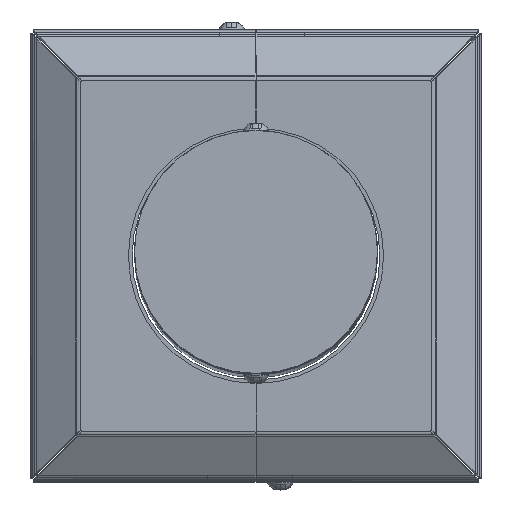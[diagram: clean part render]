
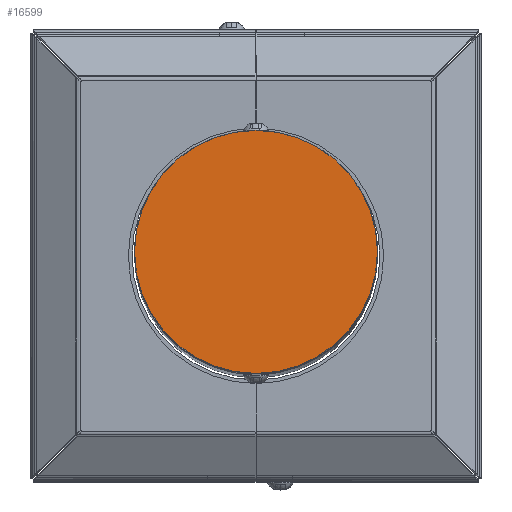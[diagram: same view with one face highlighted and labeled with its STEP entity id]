
A CAD part, top view. The second image highlights one B-rep face of the part: STEP entity #16599.
In plain terms, the highlighted planar face has unit normal (0, 0, 1).
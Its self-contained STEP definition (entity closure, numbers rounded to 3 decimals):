
#498 = DIRECTION ( 'NONE',  ( 1., 0., 0. ) ) ;
#1179 = DIRECTION ( 'NONE',  ( 0., 0., 1. ) ) ;
#1604 = EDGE_CURVE ( 'NONE', #15566, #1745, #4497, .T. ) ;
#1745 = VERTEX_POINT ( 'NONE', #13529 ) ;
#2613 = FACE_OUTER_BOUND ( 'NONE', #3618, .T. ) ;
#2937 = CARTESIAN_POINT ( 'NONE',  ( 0., 0., 1000. ) ) ;
#2963 = AXIS2_PLACEMENT_3D ( 'NONE', #6340, #6433, #498 ) ;
#3618 = EDGE_LOOP ( 'NONE', ( #14743, #12734 ) ) ;
#4140 = DIRECTION ( 'NONE',  ( 1., 0., 0. ) ) ;
#4497 = CIRCLE ( 'NONE', #2963, 50. ) ;
#6340 = CARTESIAN_POINT ( 'NONE',  ( 0., 0., 1000. ) ) ;
#6433 = DIRECTION ( 'NONE',  ( 0., 0., 1. ) ) ;
#9824 = DIRECTION ( 'NONE',  ( 1., 0., 0. ) ) ;
#10541 = CIRCLE ( 'NONE', #17833, 50. ) ;
#12221 = CARTESIAN_POINT ( 'NONE',  ( -50., 0., 1000. ) ) ;
#12398 = EDGE_CURVE ( 'NONE', #1745, #15566, #10541, .T. ) ;
#12734 = ORIENTED_EDGE ( 'NONE', *, *, #12398, .T. ) ;
#13529 = CARTESIAN_POINT ( 'NONE',  ( 50., 0., 1000. ) ) ;
#13579 = AXIS2_PLACEMENT_3D ( 'NONE', #18440, #1179, #4140 ) ;
#14249 = PLANE ( 'NONE',  #13579 ) ;
#14743 = ORIENTED_EDGE ( 'NONE', *, *, #1604, .T. ) ;
#15566 = VERTEX_POINT ( 'NONE', #12221 ) ;
#16599 = ADVANCED_FACE ( 'NONE', ( #2613 ), #14249, .T. ) ;
#17833 = AXIS2_PLACEMENT_3D ( 'NONE', #2937, #18481, #9824 ) ;
#18440 = CARTESIAN_POINT ( 'NONE',  ( 0., 0., 1000. ) ) ;
#18481 = DIRECTION ( 'NONE',  ( 0., 0., 1. ) ) ;
